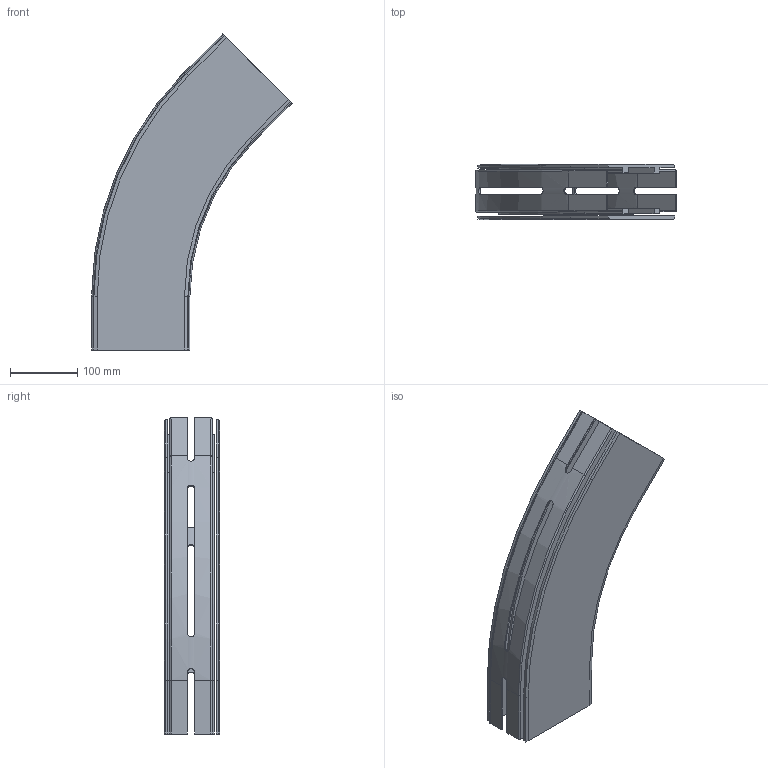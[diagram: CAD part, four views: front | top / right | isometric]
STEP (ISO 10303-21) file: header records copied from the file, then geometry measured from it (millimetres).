
FILE_DESCRIPTION(/* description */ ('GLIDKURVA SERIE 540'),/* implementation_level */ '2;1');
FILE_NAME(/* name */ '540-5375+140-2000-01.stp',/* time_stamp */ '2022-09-21T08:27:37+02:00',/* author */ ('Mathias.Dore'),/* organization */ ('CARRYLINE'),/* preprocessor_version */ 'ST-DEVELOPER v19.2',/* originating_system */ 'Autodesk Inventor 2023',/* authorisation */ '');
FILE_SCHEMA (('AUTOMOTIVE_DESIGN { 1 0 10303 214 3 1 1 }'));
Length unit declared in the file: millimetre
Products named in the file (1): 540-5375+140-2000-01
Bounding box: 298.34 x 82 x 471.03 mm (x, y, z)
Volume: 1070851.8 mm3; surface area: 553438 mm2
Topology: 2 solids, 2 shells, 175 faces, 482 edges, 316 vertices
Faces by surface type: plane 117, cylinder 28, bspline 22, cone 4, torus 4
Entity records: 6129 total; most frequent: CARTESIAN_POINT 1632, ORIENTED_EDGE 964, DIRECTION 834, EDGE_CURVE 482, LINE 350, VECTOR 350, VERTEX_POINT 316, AXIS2_PLACEMENT_3D 242
